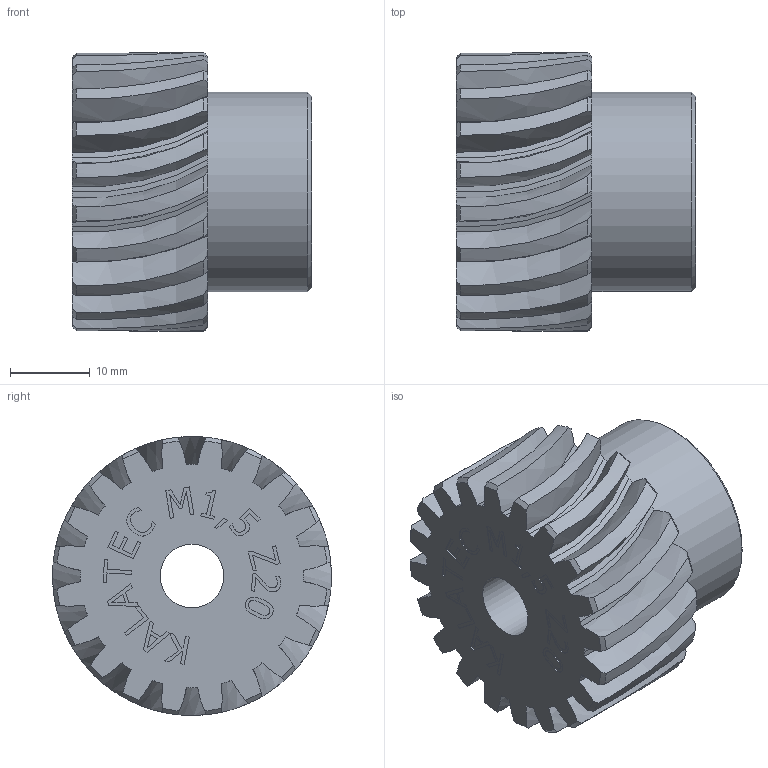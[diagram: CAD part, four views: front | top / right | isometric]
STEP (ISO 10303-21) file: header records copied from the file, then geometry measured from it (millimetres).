
FILE_DESCRIPTION(/* description */ (''),/* implementation_level */ '2;1');
FILE_NAME(/* name */ '\\JOINapp01\Profiles\martins\Desktop\ENGRENAGEM\ENGRENAGEM CORRETA\ENG DENTE HELICOIDAL M1,5 Z20.step',/* time_stamp */ '2018-07-03T17:15:31-03:00',/* author */ ('martins'),/* organization */ (''),/* preprocessor_version */ 'ST-DEVELOPER v16.1',/* originating_system */ 'Autodesk Inventor 2016',/* authorisation */ '');
FILE_SCHEMA (('AUTOMOTIVE_DESIGN { 1 0 10303 214 3 1 1 }'));
Length unit declared in the file: millimetre
Products named in the file (1): ENG DENTE HELICOIDAL M1,5 Z20
Bounding box: 30 x 35 x 35 mm (x, y, z)
Volume: 18513 mm3; surface area: 6892.4 mm2
Topology: 1 solids, 1 shells, 329 faces, 932 edges, 621 vertices
Faces by surface type: plane 133, bspline 133, cone 41, cylinder 22
Full cylindrical faces by diameter (mm): 8 x1, 25 x1
Entity records: 11792 total; most frequent: CARTESIAN_POINT 3847, ORIENTED_EDGE 1858, DIRECTION 1402, EDGE_CURVE 929, VERTEX_POINT 621, AXIS2_PLACEMENT_3D 502, LINE 398, VECTOR 398
